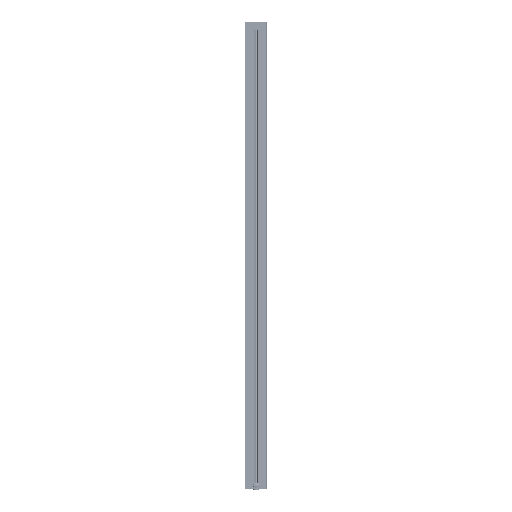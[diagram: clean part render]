
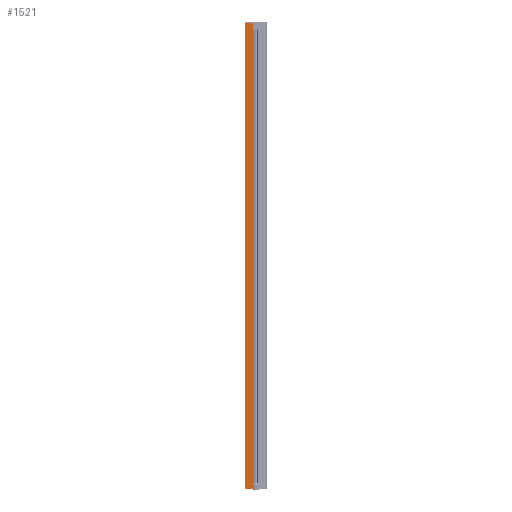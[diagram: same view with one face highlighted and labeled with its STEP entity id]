
A CAD part, left-side view. The second image highlights one B-rep face of the part: STEP entity #1521.
In plain terms, the highlighted planar face has unit normal (-1, 0, 0).
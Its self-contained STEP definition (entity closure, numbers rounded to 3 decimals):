
#300 = LINE ( 'NONE', #30055, #19514 ) ;
#1128 = EDGE_CURVE ( 'NONE', #22786, #14581, #300, .T. ) ;
#1485 = DIRECTION ( 'NONE',  ( 0., 0., 1. ) ) ;
#1521 = ADVANCED_FACE ( 'NONE', ( #33215 ), #27198, .F. ) ;
#2424 = VECTOR ( 'NONE', #1485, 1000. ) ;
#2432 = LINE ( 'NONE', #11576, #21253 ) ;
#3326 = DIRECTION ( 'NONE',  ( 0., -1., 0. ) ) ;
#3668 = CARTESIAN_POINT ( 'NONE',  ( -16., 8.487, 1017. ) ) ;
#4566 = ORIENTED_EDGE ( 'NONE', *, *, #23435, .T. ) ;
#4990 = EDGE_CURVE ( 'NONE', #19424, #30962, #27837, .T. ) ;
#6106 = ORIENTED_EDGE ( 'NONE', *, *, #1128, .T. ) ;
#6148 = DIRECTION ( 'NONE',  ( 0., -1., 0. ) ) ;
#7004 = EDGE_CURVE ( 'NONE', #30962, #32556, #33920, .T. ) ;
#7290 = ORIENTED_EDGE ( 'NONE', *, *, #7004, .F. ) ;
#7697 = CARTESIAN_POINT ( 'NONE',  ( -16., 8.776, 1017. ) ) ;
#8420 = DIRECTION ( 'NONE',  ( 1., 0., 0. ) ) ;
#8688 = VERTEX_POINT ( 'NONE', #17620 ) ;
#8845 = VERTEX_POINT ( 'NONE', #14283 ) ;
#8977 = CARTESIAN_POINT ( 'NONE',  ( -16., 8.776, 987.3 ) ) ;
#9627 = CARTESIAN_POINT ( 'NONE',  ( -16., 46.5, -1016.9 ) ) ;
#10954 = VECTOR ( 'NONE', #15238, 1000. ) ;
#11570 = EDGE_LOOP ( 'NONE', ( #24106, #6106, #26583, #7290, #28908, #14482, #4566, #33409 ) ) ;
#11576 = CARTESIAN_POINT ( 'NONE',  ( -16., 46.5, 1017. ) ) ;
#13349 = AXIS2_PLACEMENT_3D ( 'NONE', #16753, #8420, #25061 ) ;
#14220 = DIRECTION ( 'NONE',  ( 0., 0., -1. ) ) ;
#14283 = CARTESIAN_POINT ( 'NONE',  ( -16., 46.5, 1017. ) ) ;
#14476 = LINE ( 'NONE', #3668, #21090 ) ;
#14482 = ORIENTED_EDGE ( 'NONE', *, *, #20145, .F. ) ;
#14581 = VERTEX_POINT ( 'NONE', #23576 ) ;
#15238 = DIRECTION ( 'NONE',  ( 0., -1., 0. ) ) ;
#15855 = DIRECTION ( 'NONE',  ( 0., -1., 0. ) ) ;
#16356 = VECTOR ( 'NONE', #15855, 1000. ) ;
#16753 = CARTESIAN_POINT ( 'NONE',  ( -16., 8.487, 1017. ) ) ;
#16885 = CARTESIAN_POINT ( 'NONE',  ( -16., 13.85, 1017. ) ) ;
#17620 = CARTESIAN_POINT ( 'NONE',  ( -16., 13.85, -1016.9 ) ) ;
#17976 = DIRECTION ( 'NONE',  ( 0., 0., 1. ) ) ;
#19424 = VERTEX_POINT ( 'NONE', #33774 ) ;
#19514 = VECTOR ( 'NONE', #3326, 1000. ) ;
#19849 = CARTESIAN_POINT ( 'NONE',  ( -16., 13.85, 987.3 ) ) ;
#20145 = EDGE_CURVE ( 'NONE', #8845, #19424, #14476, .T. ) ;
#20346 = CARTESIAN_POINT ( 'NONE',  ( -16., 8.487, -1016.9 ) ) ;
#21090 = VECTOR ( 'NONE', #6148, 1000. ) ;
#21235 = CARTESIAN_POINT ( 'NONE',  ( -16., 13.85, -987.3 ) ) ;
#21253 = VECTOR ( 'NONE', #25203, 1000. ) ;
#21914 = VERTEX_POINT ( 'NONE', #9627 ) ;
#22786 = VERTEX_POINT ( 'NONE', #21235 ) ;
#22837 = LINE ( 'NONE', #20346, #10954 ) ;
#23435 = EDGE_CURVE ( 'NONE', #8845, #21914, #2432, .T. ) ;
#23576 = CARTESIAN_POINT ( 'NONE',  ( -16., 8.776, -987.3 ) ) ;
#23949 = VECTOR ( 'NONE', #17976, 1000. ) ;
#24106 = ORIENTED_EDGE ( 'NONE', *, *, #26690, .T. ) ;
#25061 = DIRECTION ( 'NONE',  ( 0., 1., 0. ) ) ;
#25203 = DIRECTION ( 'NONE',  ( 0., 0., -1. ) ) ;
#25932 = CARTESIAN_POINT ( 'NONE',  ( -16., 13.85, 987.3 ) ) ;
#26583 = ORIENTED_EDGE ( 'NONE', *, *, #26853, .T. ) ;
#26690 = EDGE_CURVE ( 'NONE', #8688, #22786, #28051, .T. ) ;
#26853 = EDGE_CURVE ( 'NONE', #14581, #32556, #29474, .T. ) ;
#27061 = VECTOR ( 'NONE', #14220, 1000. ) ;
#27198 = PLANE ( 'NONE',  #13349 ) ;
#27837 = LINE ( 'NONE', #16885, #27061 ) ;
#28051 = LINE ( 'NONE', #28587, #2424 ) ;
#28587 = CARTESIAN_POINT ( 'NONE',  ( -16., 13.85, -1017. ) ) ;
#28908 = ORIENTED_EDGE ( 'NONE', *, *, #4990, .F. ) ;
#29474 = LINE ( 'NONE', #7697, #23949 ) ;
#29660 = EDGE_CURVE ( 'NONE', #21914, #8688, #22837, .T. ) ;
#30055 = CARTESIAN_POINT ( 'NONE',  ( -16., 13.85, -987.3 ) ) ;
#30962 = VERTEX_POINT ( 'NONE', #19849 ) ;
#32556 = VERTEX_POINT ( 'NONE', #8977 ) ;
#33215 = FACE_OUTER_BOUND ( 'NONE', #11570, .T. ) ;
#33409 = ORIENTED_EDGE ( 'NONE', *, *, #29660, .T. ) ;
#33774 = CARTESIAN_POINT ( 'NONE',  ( -16., 13.85, 1017. ) ) ;
#33920 = LINE ( 'NONE', #25932, #16356 ) ;
